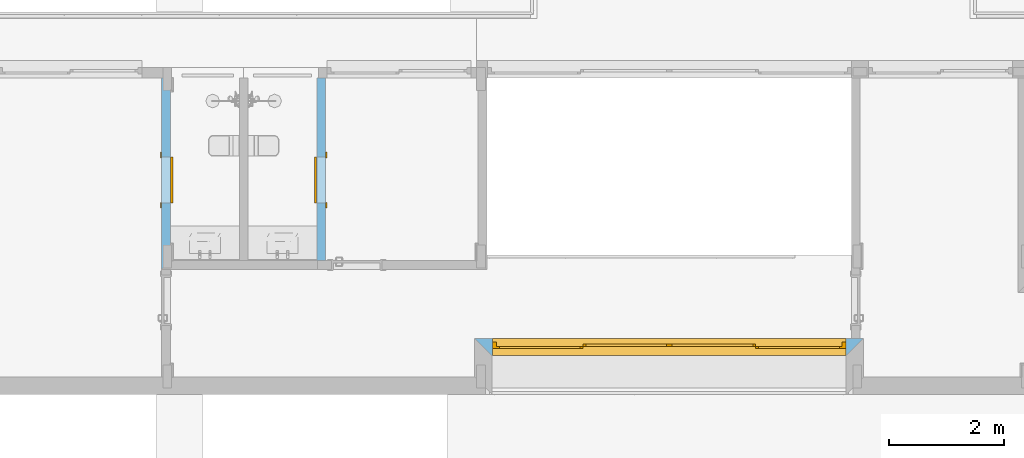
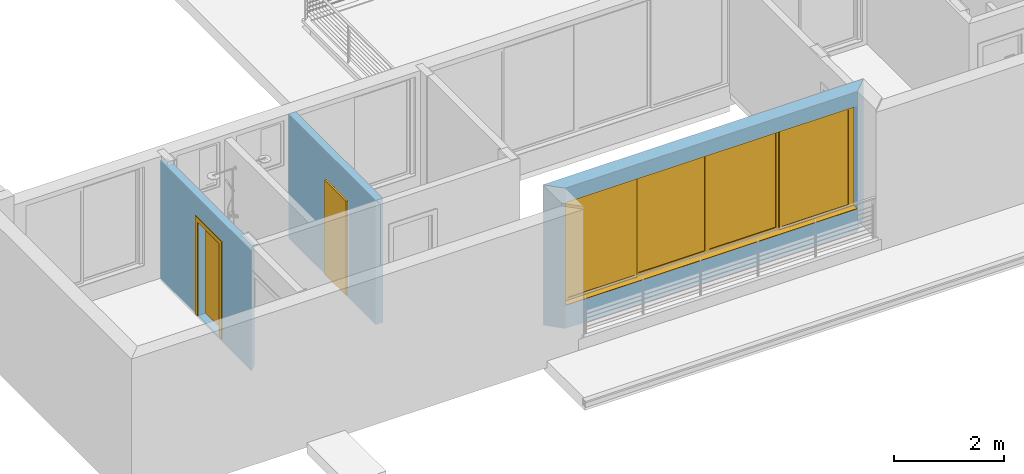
# One storey, part 15 of 24: 3 doors, 3 openings, plus 3 elements that do not belong to this part.
"""IFC2X3 building model written with IfcOpenShell, lengths in millimetres."""

from ifc_helpers import new_model, entity, si_unit, converted_unit, money_unit, direction, frame, origin_with_axes, origin_2d_with_axis, place, context, subcontext, project, spatial, polyline, rectangle, outline, extrude, open_shell, faceted_brep, surface_model, material, material_list, layer, layer_set, layer_usage, type_object, element, fill, save


model = new_model("IFC2X3")

# Units and contexts
model_context = context("Model", 3, precision=1e-05, world=origin_with_axes(), true_north=direction((0.0, 1.0)))
body_context = subcontext(model_context, "Body", "Model", "MODEL_VIEW")
ifc_project = project(units=[si_unit("LENGTHUNIT", "METRE", prefix="MILLI"), si_unit("AREAUNIT", "SQUARE_METRE"), si_unit("VOLUMEUNIT", "CUBIC_METRE"), converted_unit("PLANEANGLEUNIT", "DEGREE", entity("IfcPlaneAngleMeasure", 0.0174532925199), si_unit("PLANEANGLEUNIT", "RADIAN"), dimensions=[0, 0, 0, 0, 0, 0, 0]), si_unit("SOLIDANGLEUNIT", "STERADIAN"), money_unit("USD"), converted_unit("TIMEUNIT", "Year", entity("IfcTimeMeasure", 31556926.0), si_unit("TIMEUNIT", "SECOND"), dimensions=[0, 0, 0, 0, 0, 0, 0]), si_unit("MASSUNIT", "GRAM"), si_unit("THERMODYNAMICTEMPERATUREUNIT", "DEGREE_CELSIUS"), si_unit("LUMINOUSINTENSITYUNIT", "LUMEN")], contexts=[model_context])

# Site, building, storey
site_placement = place(None, origin_with_axes())
site = spatial("IfcSite", under=ifc_project, at=site_placement, Name="Grove Residential", CompositionType="ELEMENT")
building_placement = place(site_placement, origin_with_axes())
building = spatial("IfcBuilding", under=site, at=building_placement, Name="Building", CompositionType="ELEMENT")
storey_placement = place(building_placement, frame((0.0, 0.0, 3740.0), z_axis=(0.0, 0.0, 1.0), x_axis=(1.0, 0.0, 0.0)))
storey = spatial("IfcBuildingStorey", under=building, at=storey_placement, Name="First Floor", CompositionType="ELEMENT", Elevation=3740.0)

# Wall, opening, door
ifc_material_1 = material(Name="External Render")
ifc_layer_1 = layer(ifc_material_1, 20.0, ventilated="UNKNOWN")
ifc_material_2 = material(Name="Cement Board")
ifc_layer_2 = layer(ifc_material_2, 10.0, ventilated="UNKNOWN")
ifc_material_3 = material(Name="Air Space")
ifc_layer_3 = layer(ifc_material_3, 35.0, ventilated="UNKNOWN")
ifc_material_4 = material(Name="Insulation - Plastic Soft")
ifc_layer_4 = layer(ifc_material_4, 50.0, ventilated="UNKNOWN")
ifc_material_5 = material(Name="Concrete Block")
ifc_layer_5 = layer(ifc_material_5, 150.0, ventilated="UNKNOWN")
ifc_material_6 = material(Name="Air Space - Fixing Zone")
ifc_layer_6 = layer(ifc_material_6, 10.0, ventilated="UNKNOWN")
ifc_material_7 = material(Name="Gypsum Plasterboard")
ifc_layer_7 = layer(ifc_material_7, 12.5, ventilated="UNKNOWN")
ifc_layer_8 = layer(ifc_material_7, 12.5, ventilated="UNKNOWN")
ifc_layer_set_1 = layer_set([ifc_layer_1, ifc_layer_2, ifc_layer_3, ifc_layer_4, ifc_layer_5, ifc_layer_6, ifc_layer_7, ifc_layer_8], Name="EWF - 001")
ifc_layer_usage_1 = layer_usage(ifc_layer_set_1, "AXIS2", "POSITIVE", 0.0)
wall_type_1 = type_object("IfcWallType", Name="EWF - 001 300", PredefinedType="NOTDEFINED")
wall_1_placement = place(storey_placement, frame((714.999982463, 2024.99996722, -210.0), z_axis=(0.0, 0.0, 1.0), x_axis=(1.0, 0.0, 0.0)))
wall_1 = element("IfcWallStandardCase", 1, at=wall_1_placement, inside=storey, type_object=wall_type_1, material=ifc_layer_usage_1, Name="SW - 003", context=body_context, shape_type="SweptSolid", body=[
    extrude(outline(polyline([(115.0, 0.0), (6269.99997347, 0.0), (6569.99997347, 300.0), (-185.0, 300.0), (115.0, 0.0)])), origin_with_axes(), (0.0, 0.0, 1.0), 3130.0),
])
opening_1_placement = place(wall_1_placement, frame((3197.49998674, 0.0, 510.0), z_axis=(0.0, 0.0, 1.0), x_axis=(1.0, 0.0, 0.0)))
opening_1 = element("IfcOpeningElement", 2, at=opening_1_placement, cuts=wall_1, Name="D.12", context=body_context, shape_type="SweptSolid", body=[
    extrude(rectangle(XDim=6144.99997347, YDim=2300.0, at=origin_2d_with_axis()), frame((0.0, 120.0, 1150.0), z_axis=(0.0, -1.0, 0.0), x_axis=(-1.0, 0.0, 0.0)), (0.0, 0.0, -1.0), 480.0),
    extrude(rectangle(XDim=6144.99997347, YDim=2300.0, at=origin_2d_with_axis()), frame((0.0, 120.0, 1150.0), z_axis=(0.0, 1.0, 0.0), x_axis=(-1.0, 0.0, 0.0)), (0.0, 0.0, -1.0), 420.0),
])
ifc_material_8 = material(Name="Background")
ifc_material_9 = material(Name="Air Space")
ifc_material_10 = material(Name="Foreground")
ifc_material_11 = material(Name="Rigid Insulation")
ifc_material_12 = material(Name="Batt Insulation")
ifc_material_list_1 = material_list([ifc_material_8, ifc_material_9, ifc_material_10, ifc_material_8, ifc_material_8, ifc_material_8, ifc_material_8, ifc_material_11, ifc_material_8, ifc_material_8, ifc_material_8, ifc_material_8, ifc_material_9, ifc_material_8, ifc_material_12, ifc_material_8])
door_style_1 = type_object("IfcDoorStyle", Name="Sliding Door 21", ConstructionType="NOTDEFINED", OperationType="USERDEFINED", ParameterTakesPrecedence=False, Sizeable=False)
door_1_placement = place(opening_1_placement, frame((3072.49998674, 0.0, 0.0), z_axis=(0.0, 0.0, 1.0), x_axis=(-1.0, 0.0, 0.0)))
door_1 = element("IfcDoor", 3, at=door_1_placement, inside=storey, type_object=door_style_1, material=ifc_material_list_1, Name="D.12", OverallHeight=2300.0, OverallWidth=6145.0, context=body_context, shape_type="SurfaceModel", body=[
    faceted_brep([(0.0, -120.0, 0.0), (0.0, -120.0, 12.0), (0.0, 0.0100000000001, 12.0), (0.0, 0.0100000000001, 0.0), (70.0, -120.0, 0.0), (70.0, -120.0, 12.0), (70.0, -235.0, 12.0), (0.0, -235.0, 12.0), (0.0, -300.0, 12.0), (0.0, -300.01, 12.0), (6144.99997347, -300.01, 12.0), (6144.99997347, -300.0, 12.0), (6144.99997347, -235.0, 12.0), (6074.99997347, -235.0, 12.0), (6074.99997347, -120.0, 12.0), (6144.99997347, -120.0, 12.0), (6144.99997347, 0.0, 12.0), (6144.99997347, 0.0, 0.0), (6144.99997347, -120.0, 0.0), (6074.99997347, -120.0, 0.0), (6074.99997347, -235.0, 0.0), (6144.99997347, -235.0, 0.0), (6144.99997347, -300.0, 0.0), (6144.99997347, -300.01, 0.0), (0.0, -300.01, 0.0), (0.0, -300.0, 0.0), (0.0, -235.0, 0.0), (70.0, -235.0, 0.0)], [[[0, 1, 2, 3]], [[4, 5, 1, 0]], [[1, 5, 6, 7, 8, 9, 10, 11, 12, 13, 14, 15, 16, 2]], [[3, 2, 16, 17]], [[0, 3, 17, 18, 19, 20, 21, 22, 23, 24, 25, 26, 27, 4]], [[27, 6, 5, 4]], [[26, 7, 6, 27]], [[25, 8, 7, 26]], [[24, 9, 8, 25]], [[23, 10, 9, 24]], [[22, 11, 10, 23]], [[21, 12, 11, 22]], [[20, 13, 12, 21]], [[19, 14, 13, 20]], [[18, 15, 14, 19]], [[17, 16, 15, 18]]]),
    faceted_brep([(0.0, -120.0, 0.0), (70.0, -120.0, 0.0), (70.0, -235.0, 0.0), (0.0, -235.0, 0.0), (0.0, -120.0, 2230.0), (70.0, -120.0, 2230.0), (70.0, -235.0, 2230.0), (0.0, -235.0, 2230.0)], [[[0, 1, 2, 3]], [[0, 4, 5, 1]], [[1, 5, 6, 2]], [[3, 2, 6, 7]], [[4, 0, 3, 7]], [[5, 4, 7, 6]]]),
    faceted_brep([(6144.99997347, -120.0, 0.0), (6144.99997347, -120.0, 2230.0), (6144.99997347, -235.0, 2230.0), (6144.99997347, -235.0, 0.0), (6074.99997347, -120.0, 0.0), (6074.99997347, -120.0, 2230.0), (6074.99997347, -235.0, 2230.0), (6074.99997347, -235.0, 0.0)], [[[0, 1, 2, 3]], [[0, 4, 5, 1]], [[1, 5, 6, 2]], [[3, 2, 6, 7]], [[4, 0, 3, 7]], [[5, 4, 7, 6]]]),
    faceted_brep([(0.0, -120.0, 2300.0), (0.0, -120.0, 2230.0), (0.0, -235.0, 2230.0), (0.0, -235.0, 2300.0), (6144.99997347, -120.0, 2300.0), (6144.99997347, -120.0, 2230.0), (6074.99997347, -120.0, 2230.0), (70.0, -120.0, 2230.0), (70.0, -235.0, 2230.0), (6074.99997347, -235.0, 2230.0), (6144.99997347, -235.0, 2230.0), (6144.99997347, -235.0, 2300.0)], [[[0, 1, 2, 3]], [[0, 4, 5, 6, 7, 1]], [[1, 7, 8, 2]], [[3, 2, 8, 9, 10, 11]], [[4, 0, 3, 11]], [[5, 4, 11, 10]], [[6, 5, 10, 9]], [[7, 6, 9, 8]]]),
    faceted_brep([(1571.24999337, -120.0, 62.0), (1571.24999337, -160.0, 62.0), (1521.24999337, -160.0, 62.0), (1521.24999337, -120.0, 62.0), (1571.24999337, -120.0, 2180.0), (1571.24999337, -160.0, 2180.0), (1521.24999337, -160.0, 2180.0), (1521.24999337, -120.0, 2180.0)], [[[0, 1, 2, 3]], [[4, 5, 1, 0]], [[1, 5, 6, 2]], [[3, 2, 6, 7]], [[0, 3, 7, 4]], [[7, 6, 5, 4]]]),
    faceted_brep([(70.0, -120.0, 62.0), (70.0, -160.0, 62.0), (70.0, -160.0, 2180.0), (70.0, -120.0, 2180.0), (120.0, -120.0, 62.0), (120.0, -160.0, 62.0), (120.0, -160.0, 2180.0), (120.0, -120.0, 2180.0)], [[[0, 1, 2, 3]], [[4, 5, 1, 0]], [[1, 5, 6, 2]], [[3, 2, 6, 7]], [[0, 3, 7, 4]], [[7, 6, 5, 4]]]),
    faceted_brep([(1571.24999337, -120.0, 12.0), (1571.24999337, -160.0, 12.0), (70.0, -160.0, 12.0), (70.0, -120.0, 12.0), (1571.24999337, -120.0, 62.0), (1571.24999337, -160.0, 62.0), (1521.24999337, -160.0, 62.0), (120.0, -160.0, 62.0), (70.0, -160.0, 62.0), (70.0, -120.0, 62.0), (120.0, -120.0, 62.0), (1521.24999337, -120.0, 62.0)], [[[0, 1, 2, 3]], [[4, 5, 1, 0]], [[1, 5, 6, 7, 8, 2]], [[3, 2, 8, 9]], [[0, 3, 9, 10, 11, 4]], [[11, 6, 5, 4]], [[10, 7, 6, 11]], [[9, 8, 7, 10]]]),
    faceted_brep([(1571.24999337, -120.0, 2230.0), (1571.24999337, -160.0, 2230.0), (1571.24999337, -160.0, 2180.0), (1571.24999337, -120.0, 2180.0), (70.0, -120.0, 2230.0), (70.0, -160.0, 2230.0), (70.0, -160.0, 2180.0), (120.0, -160.0, 2180.0), (1521.24999337, -160.0, 2180.0), (1521.24999337, -120.0, 2180.0), (120.0, -120.0, 2180.0), (70.0, -120.0, 2180.0)], [[[0, 1, 2, 3]], [[4, 5, 1, 0]], [[1, 5, 6, 7, 8, 2]], [[3, 2, 8, 9]], [[0, 3, 9, 10, 11, 4]], [[11, 6, 5, 4]], [[10, 7, 6, 11]], [[9, 8, 7, 10]]]),
    surface_model("IfcShellBasedSurfaceModel", [(1521.24999337, -134.0, 62.0), (120.0, -134.0, 62.0), (120.0, -134.0, 2180.0), (1521.24999337, -134.0, 2180.0)], [open_shell([[[0, 1, 2, 3]]])]),
    surface_model("IfcShellBasedSurfaceModel", [(1521.24999337, -146.0, 62.0), (1521.24999337, -146.0, 2180.0), (120.0, -146.0, 2180.0), (120.0, -146.0, 62.0)], [open_shell([[[0, 1, 2, 3]]])]),
    faceted_brep([(1571.24999337, -160.0, 62.0), (1621.24999337, -160.0, 62.0), (1621.24999337, -200.0, 62.0), (1571.24999337, -200.0, 62.0), (1571.24999337, -160.0, 2180.0), (1621.24999337, -160.0, 2180.0), (1621.24999337, -200.0, 2180.0), (1571.24999337, -200.0, 2180.0)], [[[0, 1, 2, 3]], [[0, 4, 5, 1]], [[1, 5, 6, 2]], [[3, 2, 6, 7]], [[4, 0, 3, 7]], [[5, 4, 7, 6]]]),
    faceted_brep([(3072.49998674, -160.0, 62.0), (3072.49998674, -160.0, 2180.0), (3072.49998674, -200.0, 2180.0), (3072.49998674, -200.0, 62.0), (3022.49998674, -160.0, 62.0), (3022.49998674, -160.0, 2180.0), (3022.49998674, -200.0, 2180.0), (3022.49998674, -200.0, 62.0)], [[[0, 1, 2, 3]], [[0, 4, 5, 1]], [[1, 5, 6, 2]], [[3, 2, 6, 7]], [[4, 0, 3, 7]], [[5, 4, 7, 6]]]),
    faceted_brep([(1571.24999337, -160.0, 12.0), (3072.49998674, -160.0, 12.0), (3072.49998674, -200.0, 12.0), (1571.24999337, -200.0, 12.0), (1571.24999337, -160.0, 62.0), (1621.24999337, -160.0, 62.0), (3022.49998674, -160.0, 62.0), (3072.49998674, -160.0, 62.0), (3072.49998674, -200.0, 62.0), (3022.49998674, -200.0, 62.0), (1621.24999337, -200.0, 62.0), (1571.24999337, -200.0, 62.0)], [[[0, 1, 2, 3]], [[0, 4, 5, 6, 7, 1]], [[1, 7, 8, 2]], [[3, 2, 8, 9, 10, 11]], [[4, 0, 3, 11]], [[5, 4, 11, 10]], [[6, 5, 10, 9]], [[7, 6, 9, 8]]]),
    faceted_brep([(1571.24999337, -160.0, 2230.0), (1571.24999337, -160.0, 2180.0), (1571.24999337, -200.0, 2180.0), (1571.24999337, -200.0, 2230.0), (3072.49998674, -160.0, 2230.0), (3072.49998674, -160.0, 2180.0), (3022.49998674, -160.0, 2180.0), (1621.24999337, -160.0, 2180.0), (1621.24999337, -200.0, 2180.0), (3022.49998674, -200.0, 2180.0), (3072.49998674, -200.0, 2180.0), (3072.49998674, -200.0, 2230.0)], [[[0, 1, 2, 3]], [[0, 4, 5, 6, 7, 1]], [[1, 7, 8, 2]], [[3, 2, 8, 9, 10, 11]], [[4, 0, 3, 11]], [[5, 4, 11, 10]], [[6, 5, 10, 9]], [[7, 6, 9, 8]]]),
    surface_model("IfcShellBasedSurfaceModel", [(1621.24999337, -174.0, 62.0), (1621.24999337, -174.0, 2180.0), (3022.49998674, -174.0, 2180.0), (3022.49998674, -174.0, 62.0)], [open_shell([[[0, 1, 2, 3]]])]),
    surface_model("IfcShellBasedSurfaceModel", [(1621.24999337, -186.0, 62.0), (3022.49998674, -186.0, 62.0), (3022.49998674, -186.0, 2180.0), (1621.24999337, -186.0, 2180.0)], [open_shell([[[0, 1, 2, 3]]])]),
    faceted_brep([(4573.7499801, -120.0, 62.0), (4623.7499801, -120.0, 62.0), (4623.7499801, -160.0, 62.0), (4573.7499801, -160.0, 62.0), (4573.7499801, -120.0, 2180.0), (4623.7499801, -120.0, 2180.0), (4623.7499801, -160.0, 2180.0), (4573.7499801, -160.0, 2180.0)], [[[0, 1, 2, 3]], [[0, 4, 5, 1]], [[1, 5, 6, 2]], [[3, 2, 6, 7]], [[4, 0, 3, 7]], [[5, 4, 7, 6]]]),
    faceted_brep([(6074.99997347, -120.0, 62.0), (6074.99997347, -120.0, 2180.0), (6074.99997347, -160.0, 2180.0), (6074.99997347, -160.0, 62.0), (6024.99997347, -120.0, 62.0), (6024.99997347, -120.0, 2180.0), (6024.99997347, -160.0, 2180.0), (6024.99997347, -160.0, 62.0)], [[[0, 1, 2, 3]], [[0, 4, 5, 1]], [[1, 5, 6, 2]], [[3, 2, 6, 7]], [[4, 0, 3, 7]], [[5, 4, 7, 6]]]),
    faceted_brep([(4573.7499801, -120.0, 12.0), (6074.99997347, -120.0, 12.0), (6074.99997347, -160.0, 12.0), (4573.7499801, -160.0, 12.0), (4573.7499801, -120.0, 62.0), (4623.7499801, -120.0, 62.0), (6024.99997347, -120.0, 62.0), (6074.99997347, -120.0, 62.0), (6074.99997347, -160.0, 62.0), (6024.99997347, -160.0, 62.0), (4623.7499801, -160.0, 62.0), (4573.7499801, -160.0, 62.0)], [[[0, 1, 2, 3]], [[0, 4, 5, 6, 7, 1]], [[1, 7, 8, 2]], [[3, 2, 8, 9, 10, 11]], [[4, 0, 3, 11]], [[5, 4, 11, 10]], [[6, 5, 10, 9]], [[7, 6, 9, 8]]]),
    faceted_brep([(4573.7499801, -120.0, 2230.0), (4573.7499801, -120.0, 2180.0), (4573.7499801, -160.0, 2180.0), (4573.7499801, -160.0, 2230.0), (6074.99997347, -120.0, 2230.0), (6074.99997347, -120.0, 2180.0), (6024.99997347, -120.0, 2180.0), (4623.7499801, -120.0, 2180.0), (4623.7499801, -160.0, 2180.0), (6024.99997347, -160.0, 2180.0), (6074.99997347, -160.0, 2180.0), (6074.99997347, -160.0, 2230.0)], [[[0, 1, 2, 3]], [[0, 4, 5, 6, 7, 1]], [[1, 7, 8, 2]], [[3, 2, 8, 9, 10, 11]], [[4, 0, 3, 11]], [[5, 4, 11, 10]], [[6, 5, 10, 9]], [[7, 6, 9, 8]]]),
    surface_model("IfcShellBasedSurfaceModel", [(4623.7499801, -134.0, 62.0), (4623.7499801, -134.0, 2180.0), (6024.99997347, -134.0, 2180.0), (6024.99997347, -134.0, 62.0)], [open_shell([[[0, 1, 2, 3]]])]),
    surface_model("IfcShellBasedSurfaceModel", [(4623.7499801, -146.0, 62.0), (6024.99997347, -146.0, 62.0), (6024.99997347, -146.0, 2180.0), (4623.7499801, -146.0, 2180.0)], [open_shell([[[0, 1, 2, 3]]])]),
    faceted_brep([(4573.7499801, -160.0, 62.0), (4573.7499801, -200.0, 62.0), (4523.7499801, -200.0, 62.0), (4523.7499801, -160.0, 62.0), (4573.7499801, -160.0, 2180.0), (4573.7499801, -200.0, 2180.0), (4523.7499801, -200.0, 2180.0), (4523.7499801, -160.0, 2180.0)], [[[0, 1, 2, 3]], [[4, 5, 1, 0]], [[1, 5, 6, 2]], [[3, 2, 6, 7]], [[0, 3, 7, 4]], [[7, 6, 5, 4]]]),
    faceted_brep([(3072.49998674, -160.0, 62.0), (3072.49998674, -200.0, 62.0), (3072.49998674, -200.0, 2180.0), (3072.49998674, -160.0, 2180.0), (3122.49998674, -160.0, 62.0), (3122.49998674, -200.0, 62.0), (3122.49998674, -200.0, 2180.0), (3122.49998674, -160.0, 2180.0)], [[[0, 1, 2, 3]], [[4, 5, 1, 0]], [[1, 5, 6, 2]], [[3, 2, 6, 7]], [[0, 3, 7, 4]], [[7, 6, 5, 4]]]),
    faceted_brep([(4573.7499801, -160.0, 12.0), (4573.7499801, -200.0, 12.0), (3072.49998674, -200.0, 12.0), (3072.49998674, -160.0, 12.0), (4573.7499801, -160.0, 62.0), (4573.7499801, -200.0, 62.0), (4523.7499801, -200.0, 62.0), (3122.49998674, -200.0, 62.0), (3072.49998674, -200.0, 62.0), (3072.49998674, -160.0, 62.0), (3122.49998674, -160.0, 62.0), (4523.7499801, -160.0, 62.0)], [[[0, 1, 2, 3]], [[4, 5, 1, 0]], [[1, 5, 6, 7, 8, 2]], [[3, 2, 8, 9]], [[0, 3, 9, 10, 11, 4]], [[11, 6, 5, 4]], [[10, 7, 6, 11]], [[9, 8, 7, 10]]]),
    faceted_brep([(4573.7499801, -160.0, 2230.0), (4573.7499801, -200.0, 2230.0), (4573.7499801, -200.0, 2180.0), (4573.7499801, -160.0, 2180.0), (3072.49998674, -160.0, 2230.0), (3072.49998674, -200.0, 2230.0), (3072.49998674, -200.0, 2180.0), (3122.49998674, -200.0, 2180.0), (4523.7499801, -200.0, 2180.0), (4523.7499801, -160.0, 2180.0), (3122.49998674, -160.0, 2180.0), (3072.49998674, -160.0, 2180.0)], [[[0, 1, 2, 3]], [[4, 5, 1, 0]], [[1, 5, 6, 7, 8, 2]], [[3, 2, 8, 9]], [[0, 3, 9, 10, 11, 4]], [[11, 6, 5, 4]], [[10, 7, 6, 11]], [[9, 8, 7, 10]]]),
    surface_model("IfcShellBasedSurfaceModel", [(4523.7499801, -174.0, 62.0), (3122.49998674, -174.0, 62.0), (3122.49998674, -174.0, 2180.0), (4523.7499801, -174.0, 2180.0)], [open_shell([[[0, 1, 2, 3]]])]),
    surface_model("IfcShellBasedSurfaceModel", [(4523.7499801, -186.0, 62.0), (4523.7499801, -186.0, 2180.0), (3122.49998674, -186.0, 2180.0), (3122.49998674, -186.0, 62.0)], [open_shell([[[0, 1, 2, 3]]])]),
])
fill(opening_1, door_1)

ifc_material_13 = material(Name="Wall Tiles")
ifc_layer_9 = layer(ifc_material_13, 12.5, ventilated="UNKNOWN")
ifc_material_14 = material(Name="Gypsum Plasterboard - Waterproof")
ifc_layer_10 = layer(ifc_material_14, 12.5, ventilated="UNKNOWN")
ifc_material_15 = material(Name="Air Space - Frame")
ifc_layer_11 = layer(ifc_material_15, 50.0, ventilated="UNKNOWN")
ifc_material_16 = material(Name="Insulation - Mineral Soft")
ifc_layer_12 = layer(ifc_material_16, 50.0, ventilated="UNKNOWN")
ifc_layer_13 = layer(ifc_material_7, 12.5, ventilated="UNKNOWN")
ifc_layer_14 = layer(ifc_material_7, 12.5, ventilated="UNKNOWN")
ifc_layer_set_2 = layer_set([ifc_layer_9, ifc_layer_10, ifc_layer_11, ifc_layer_12, ifc_layer_13, ifc_layer_14], Name="IWF-002")
ifc_layer_usage_2 = layer_usage(ifc_layer_set_2, "AXIS2", "NEGATIVE", 150.0)
wall_type_2 = type_object("IfcWallType", Name="IWF-002 150", PredefinedType="NOTDEFINED")
wall_2_placement = place(storey_placement, frame((-4910.0, 7035.0, -60.0), z_axis=(0.0, 0.0, 1.0), x_axis=(0.0, -1.0, 0.0)))
wall_2 = element("IfcWallStandardCase", 4, at=wall_2_placement, inside=storey, type_object=wall_type_2, material=ifc_layer_usage_2, Name="SW - 001", context=body_context, shape_type="SweptSolid", body=[
    extrude(outline(polyline([(185.0, 0.0), (3510.00003278, 0.0), (3360.00003278, 150.0), (185.0, 150.0), (185.0, 0.0)])), origin_with_axes(), (0.0, 0.0, 1.0), 2680.0),
])
opening_2_placement = place(wall_2_placement, frame((1960.00003278, 0.0, 60.0), z_axis=(0.0, 0.0, 1.0), x_axis=(1.0, 0.0, 0.0)))
opening_2 = element("IfcOpeningElement", 5, at=opening_2_placement, cuts=wall_2, Name="D.01", context=body_context, shape_type="SweptSolid", body=[
    extrude(rectangle(XDim=800.0, YDim=2100.0, at=origin_2d_with_axis()), frame((0.0, 150.0, 1050.0), z_axis=(0.0, 1.0, 0.0), x_axis=(-1.0, 0.0, 0.0)), (0.0, 0.0, -1.0), 450.0),
    extrude(rectangle(XDim=974.0, YDim=2187.0, at=origin_2d_with_axis()), frame((0.0, 0.0, 1093.5), z_axis=(0.0, -1.0, 0.0), x_axis=(-1.0, 0.0, 0.0)), (0.0, 0.0, 1.0), 150.0),
])
ifc_material_list_2 = material_list([ifc_material_8, ifc_material_9, ifc_material_10, ifc_material_8, ifc_material_8, ifc_material_8, ifc_material_8, ifc_material_11, ifc_material_8, ifc_material_8, ifc_material_8, ifc_material_8, ifc_material_8, ifc_material_12, ifc_material_8])
door_style_2 = type_object("IfcDoorStyle", Name="Exterior Sliding Door 21", ConstructionType="NOTDEFINED", OperationType="SLIDING_TO_LEFT", ParameterTakesPrecedence=False, Sizeable=False)
door_2_placement = place(opening_2_placement, frame((-400.0, 0.0, 0.0), z_axis=(0.0, 0.0, 1.0), x_axis=(1.0, 0.0, 0.0)))
door_2 = element("IfcDoor", 6, at=door_2_placement, inside=storey, type_object=door_style_2, material=ifc_material_list_2, Name="D.01", OverallHeight=2100.0, OverallWidth=800.0, context=body_context, shape_type="Brep", body=[
    faceted_brep([(887.0, -19.0, 0.0), (787.0, -19.0, 0.0), (787.0, 0.0, 0.0), (887.0, 0.0, 0.0), (887.0, -19.0, 2187.0), (787.0, -19.0, 2087.0), (787.0, 0.0, 2087.0), (887.0, 0.0, 2187.0)], [[[0, 1, 2, 3]], [[0, 4, 5, 1]], [[1, 5, 6, 2]], [[3, 2, 6, 7]], [[4, 0, 3, 7]], [[5, 4, 7, 6]]]),
    faceted_brep([(-87.0, -19.0, 2187.0), (13.0, -19.0, 2087.0), (13.0, 0.0, 2087.0), (-87.0, 0.0, 2187.0), (-87.0, -19.0, 0.0), (13.0, -19.0, 0.0), (13.0, 0.0, 0.0), (-87.0, 0.0, 0.0)], [[[0, 1, 2, 3]], [[0, 4, 5, 1]], [[1, 5, 6, 2]], [[3, 2, 6, 7]], [[4, 0, 3, 7]], [[5, 4, 7, 6]]]),
    faceted_brep([(887.0, -19.0, 2187.0), (787.0, -19.0, 2087.0), (787.0, 0.0, 2087.0), (887.0, 0.0, 2187.0), (-87.0, -19.0, 2187.0), (13.0, -19.0, 2087.0), (13.0, 0.0, 2087.0), (-87.0, 0.0, 2187.0)], [[[0, 1, 2, 3]], [[0, 4, 5, 1]], [[1, 5, 6, 2]], [[3, 2, 6, 7]], [[4, 0, 3, 7]], [[5, 4, 7, 6]]]),
    faceted_brep([(0.0, 195.0, 0.0), (800.0, 195.0, 0.0), (800.0, 155.0, 0.0), (0.0, 155.0, 0.0), (0.0, 195.0, 2100.0), (800.0, 195.0, 2100.0), (800.0, 155.0, 2100.0), (0.0, 155.0, 2100.0)], [[[0, 1, 2, 3]], [[0, 4, 5, 1]], [[1, 5, 6, 2]], [[3, 2, 6, 7]], [[4, 0, 3, 7]], [[5, 4, 7, 6]]]),
])
fill(opening_2, door_2)

ifc_layer_usage_3 = layer_usage(ifc_layer_set_2, "AXIS2", "POSITIVE", -150.0)
wall_3_placement = place(storey_placement, frame((-2060.0, 7035.0, -60.0), z_axis=(0.0, 0.0, 1.0), x_axis=(0.0, -1.0, 0.0)))
wall_3 = element("IfcWallStandardCase", 7, at=wall_3_placement, inside=storey, type_object=wall_type_2, material=ifc_layer_usage_3, Name="SW - 001", context=body_context, shape_type="SweptSolid", body=[
    extrude(outline(polyline([(185.0, -150.0), (3360.00003278, -150.0), (3360.00003278, 0.0), (185.0, 0.0), (185.0, -150.0)])), origin_with_axes(), (0.0, 0.0, 1.0), 2770.0),
])
opening_3_placement = place(wall_3_placement, frame((1960.00003278, 0.0, 60.0), z_axis=(0.0, 0.0, 1.0), x_axis=(1.0, 0.0, 0.0)))
opening_3 = element("IfcOpeningElement", 8, at=opening_3_placement, cuts=wall_3, Name="D.01", context=body_context, shape_type="SweptSolid", body=[
    extrude(rectangle(XDim=800.0, YDim=2100.0, at=origin_2d_with_axis()), frame((0.0, -150.0, 1050.0), z_axis=(0.0, 1.0, 0.0), x_axis=(-1.0, 0.0, 0.0)), (0.0, 0.0, 1.0), 450.0),
    extrude(rectangle(XDim=974.0, YDim=2187.0, at=origin_2d_with_axis()), frame((0.0, 0.0, 1093.5), z_axis=(0.0, -1.0, 0.0), x_axis=(-1.0, 0.0, 0.0)), (0.0, 0.0, -1.0), 150.0),
])
door_style_3 = type_object("IfcDoorStyle", Name="Exterior Sliding Door 21", ConstructionType="NOTDEFINED", OperationType="SLIDING_TO_RIGHT", ParameterTakesPrecedence=False, Sizeable=False)
door_3_placement = place(opening_3_placement, frame((400.0, 0.0, 0.0), z_axis=(0.0, 0.0, 1.0), x_axis=(-1.0, 0.0, 0.0)))
door_3 = element("IfcDoor", 9, at=door_3_placement, inside=storey, type_object=door_style_3, material=ifc_material_list_2, Name="D.01", OverallHeight=2100.0, OverallWidth=800.0, context=body_context, shape_type="Brep", body=[
    faceted_brep([(-87.0, -19.0, 0.0), (-87.0, 0.0, 0.0), (13.0, 0.0, 0.0), (13.0, -19.0, 0.0), (-87.0, -19.0, 2187.0), (-87.0, 0.0, 2187.0), (13.0, 0.0, 2087.0), (13.0, -19.0, 2087.0)], [[[0, 1, 2, 3]], [[4, 5, 1, 0]], [[1, 5, 6, 2]], [[3, 2, 6, 7]], [[0, 3, 7, 4]], [[7, 6, 5, 4]]]),
    faceted_brep([(887.0, -19.0, 2187.0), (887.0, 0.0, 2187.0), (787.0, 0.0, 2087.0), (787.0, -19.0, 2087.0), (887.0, -19.0, 0.0), (887.0, 0.0, 0.0), (787.0, 0.0, 0.0), (787.0, -19.0, 0.0)], [[[0, 1, 2, 3]], [[4, 5, 1, 0]], [[1, 5, 6, 2]], [[3, 2, 6, 7]], [[0, 3, 7, 4]], [[7, 6, 5, 4]]]),
    faceted_brep([(-87.0, -19.0, 2187.0), (-87.0, 0.0, 2187.0), (13.0, 0.0, 2087.0), (13.0, -19.0, 2087.0), (887.0, -19.0, 2187.0), (887.0, 0.0, 2187.0), (787.0, 0.0, 2087.0), (787.0, -19.0, 2087.0)], [[[0, 1, 2, 3]], [[4, 5, 1, 0]], [[1, 5, 6, 2]], [[3, 2, 6, 7]], [[0, 3, 7, 4]], [[7, 6, 5, 4]]]),
    faceted_brep([(800.0, 195.0, 0.0), (800.0, 155.0, 0.0), (0.0, 155.0, 0.0), (0.0, 195.0, 0.0), (800.0, 195.0, 2100.0), (800.0, 155.0, 2100.0), (0.0, 155.0, 2100.0), (0.0, 195.0, 2100.0)], [[[0, 1, 2, 3]], [[4, 5, 1, 0]], [[1, 5, 6, 2]], [[3, 2, 6, 7]], [[0, 3, 7, 4]], [[7, 6, 5, 4]]]),
])
fill(opening_3, door_3)

save(model, "model.ifc")
